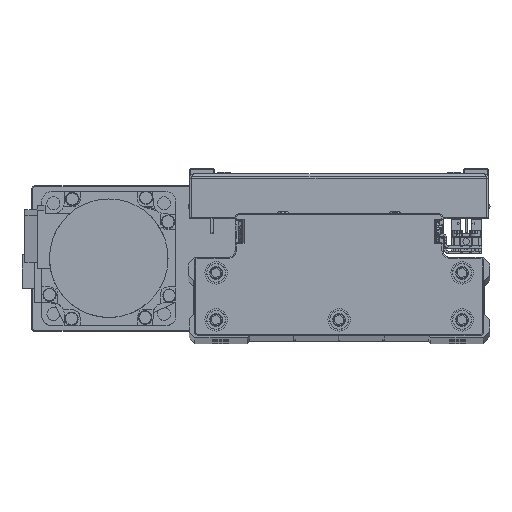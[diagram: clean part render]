
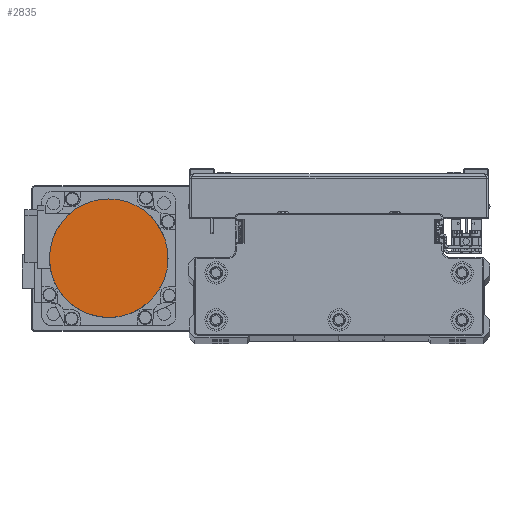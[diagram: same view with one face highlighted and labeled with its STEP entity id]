
A CAD part, top view. The second image highlights one B-rep face of the part: STEP entity #2835.
In plain terms, the highlighted planar face has unit normal (0, 0, 1) as drawn and (0, 0, -1) by its records, which use the part's own axes.
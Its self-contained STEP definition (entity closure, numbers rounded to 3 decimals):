
#530 = DIRECTION ( 'NONE',  ( 0., 0., 1. ) ) ;
#715 = CARTESIAN_POINT ( 'NONE',  ( -13.28, -22.998, -109.7 ) ) ;
#913 = ORIENTED_EDGE ( 'NONE', *, *, #24701, .F. ) ;
#959 = CARTESIAN_POINT ( 'NONE',  ( 17.512, -19.965, -109.7 ) ) ;
#2234 = CARTESIAN_POINT ( 'NONE',  ( 11.744, 23.819, -109.7 ) ) ;
#2474 = CARTESIAN_POINT ( 'NONE',  ( -19.965, 17.512, -109.7 ) ) ;
#2835 = ADVANCED_FACE ( 'NONE', ( #3971 ), #17881, .F. ) ;
#2983 = ORIENTED_EDGE ( 'NONE', *, *, #26937, .F. ) ;
#3971 = FACE_OUTER_BOUND ( 'NONE', #27456, .T. ) ;
#4138 = CARTESIAN_POINT ( 'NONE',  ( -19.965, -17.512, -109.7 ) ) ;
#4367 = CARTESIAN_POINT ( 'NONE',  ( 11.744, -23.819, -109.7 ) ) ;
#5671 = CARTESIAN_POINT ( 'NONE',  ( 17.512, 19.965, -109.7 ) ) ;
#5894 = CARTESIAN_POINT ( 'NONE',  ( -13.28, 22.998, -109.7 ) ) ;
#7228 = AXIS2_PLACEMENT_3D ( 'NONE', #31821, #530, #14461 ) ;
#7596 = CARTESIAN_POINT ( 'NONE',  ( -23.819, -11.744, -109.7 ) ) ;
#7818 = CARTESIAN_POINT ( 'NONE',  ( 3.469, -26.329, -109.7 ) ) ;
#8041 = CARTESIAN_POINT ( 'NONE',  ( 26.329, -3.469, -109.7 ) ) ;
#9115 = CARTESIAN_POINT ( 'NONE',  ( 22.998, 13.28, -109.7 ) ) ;
#9329 = CARTESIAN_POINT ( 'NONE',  ( -6.871, 25.652, -109.7 ) ) ;
#9546 = CARTESIAN_POINT ( 'NONE',  ( -26.5, 1.734, -109.7 ) ) ;
#11002 = CARTESIAN_POINT ( 'NONE',  ( -26.329, -3.469, -109.7 ) ) ;
#11244 = CARTESIAN_POINT ( 'NONE',  ( -3.469, -26.329, -109.7 ) ) ;
#11465 = CARTESIAN_POINT ( 'NONE',  ( 23.819, -11.744, -109.7 ) ) ;
#12526 = CARTESIAN_POINT ( 'NONE',  ( 25.652, 6.871, -109.7 ) ) ;
#12757 = CARTESIAN_POINT ( 'NONE',  ( 1.734, 26.5, -109.7 ) ) ;
#12967 = CARTESIAN_POINT ( 'NONE',  ( -25.147, 8.539, -109.7 ) ) ;
#14461 = DIRECTION ( 'NONE',  ( 1., 0., 0. ) ) ;
#14647 = CARTESIAN_POINT ( 'NONE',  ( -11.744, -23.819, -109.7 ) ) ;
#14888 = CARTESIAN_POINT ( 'NONE',  ( 19.965, -17.512, -109.7 ) ) ;
#15933 = CARTESIAN_POINT ( 'NONE',  ( 26.5, 0., -109.7 ) ) ;
#16164 = CARTESIAN_POINT ( 'NONE',  ( 8.539, 25.147, -109.7 ) ) ;
#16394 = CARTESIAN_POINT ( 'NONE',  ( -21.07, 16.165, -109.7 ) ) ;
#17881 = PLANE ( 'NONE',  #7228 ) ;
#18057 = CARTESIAN_POINT ( 'NONE',  ( -17.512, -19.965, -109.7 ) ) ;
#18097 = B_SPLINE_CURVE_WITH_KNOTS ( 'NONE', 3,
 ( #28351, #42269, #11002, #24936, #38861, #7596, #21513, #35430, #4138, #18057, #32005, #715, #14647, #28592, #42515, #11244, #25170, #39085, #7818, #21731, #35653, #4367, #18293, #32250, #959, #14888, #28823, #42736, #11465, #25391, #39311, #8041, #21966, #35888 ),
 .UNSPECIFIED., .F., .F.,
 ( 4, 2, 2, 2, 2, 2, 2, 2, 2, 2, 2, 2, 2, 2, 2, 2, 4 ),
 ( 0., 0.063, 0.125, 0.188, 0.25, 0.312, 0.375, 0.437, 0.5, 0.562, 0.625, 0.687, 0.75, 0.813, 0.875, 0.938, 1. ),
 .UNSPECIFIED. ) ;
#18293 = CARTESIAN_POINT ( 'NONE',  ( 13.28, -22.998, -109.7 ) ) ;
#19583 = CARTESIAN_POINT ( 'NONE',  ( 16.165, 21.07, -109.7 ) ) ;
#19816 = CARTESIAN_POINT ( 'NONE',  ( -16.165, 21.07, -109.7 ) ) ;
#21306 = CARTESIAN_POINT ( 'NONE',  ( -26.5, 0., -109.7 ) ) ;
#21513 = CARTESIAN_POINT ( 'NONE',  ( -22.998, -13.28, -109.7 ) ) ;
#21731 = CARTESIAN_POINT ( 'NONE',  ( 6.871, -25.652, -109.7 ) ) ;
#21966 = CARTESIAN_POINT ( 'NONE',  ( 26.5, -1.734, -109.7 ) ) ;
#23040 = CARTESIAN_POINT ( 'NONE',  ( 21.07, 16.165, -109.7 ) ) ;
#23245 = CARTESIAN_POINT ( 'NONE',  ( -8.539, 25.147, -109.7 ) ) ;
#23473 = CARTESIAN_POINT ( 'NONE',  ( -26.5, 0., -109.7 ) ) ;
#23511 = B_SPLINE_CURVE_WITH_KNOTS ( 'NONE', 3,
 ( #15933, #29875, #43798, #12526, #26469, #40391, #9115, #23040, #36950, #5671, #19583, #33523, #2234, #16164, #30112, #44040, #12757, #26691, #40594, #9329, #23245, #37165, #5894, #19816, #33755, #2474, #16394, #30331, #44254, #12967, #26908, #40810, #9546, #23473 ),
 .UNSPECIFIED., .F., .F.,
 ( 4, 2, 2, 2, 2, 2, 2, 2, 2, 2, 2, 2, 2, 2, 2, 2, 4 ),
 ( 0., 0.062, 0.125, 0.187, 0.25, 0.312, 0.375, 0.437, 0.5, 0.562, 0.625, 0.687, 0.75, 0.813, 0.875, 0.938, 1. ),
 .UNSPECIFIED. ) ;
#24701 = EDGE_CURVE ( 'NONE', #35715, #36092, #23511, .T. ) ;
#24936 = CARTESIAN_POINT ( 'NONE',  ( -25.652, -6.871, -109.7 ) ) ;
#25170 = CARTESIAN_POINT ( 'NONE',  ( -1.734, -26.5, -109.7 ) ) ;
#25391 = CARTESIAN_POINT ( 'NONE',  ( 25.147, -8.539, -109.7 ) ) ;
#26469 = CARTESIAN_POINT ( 'NONE',  ( 25.147, 8.539, -109.7 ) ) ;
#26691 = CARTESIAN_POINT ( 'NONE',  ( -1.734, 26.5, -109.7 ) ) ;
#26908 = CARTESIAN_POINT ( 'NONE',  ( -25.652, 6.871, -109.7 ) ) ;
#26937 = EDGE_CURVE ( 'NONE', #36092, #35715, #18097, .T. ) ;
#27456 = EDGE_LOOP ( 'NONE', ( #913, #2983 ) ) ;
#28351 = CARTESIAN_POINT ( 'NONE',  ( -26.5, 0., -109.7 ) ) ;
#28592 = CARTESIAN_POINT ( 'NONE',  ( -8.539, -25.147, -109.7 ) ) ;
#28823 = CARTESIAN_POINT ( 'NONE',  ( 21.07, -16.165, -109.7 ) ) ;
#29875 = CARTESIAN_POINT ( 'NONE',  ( 26.5, 1.734, -109.7 ) ) ;
#30112 = CARTESIAN_POINT ( 'NONE',  ( 6.871, 25.652, -109.7 ) ) ;
#30331 = CARTESIAN_POINT ( 'NONE',  ( -22.998, 13.28, -109.7 ) ) ;
#31821 = CARTESIAN_POINT ( 'NONE',  ( 0., 0., -109.7 ) ) ;
#32005 = CARTESIAN_POINT ( 'NONE',  ( -16.165, -21.07, -109.7 ) ) ;
#32250 = CARTESIAN_POINT ( 'NONE',  ( 16.165, -21.07, -109.7 ) ) ;
#33523 = CARTESIAN_POINT ( 'NONE',  ( 13.28, 22.998, -109.7 ) ) ;
#33755 = CARTESIAN_POINT ( 'NONE',  ( -17.512, 19.965, -109.7 ) ) ;
#35430 = CARTESIAN_POINT ( 'NONE',  ( -21.07, -16.165, -109.7 ) ) ;
#35653 = CARTESIAN_POINT ( 'NONE',  ( 8.539, -25.147, -109.7 ) ) ;
#35715 = VERTEX_POINT ( 'NONE', #38054 ) ;
#35888 = CARTESIAN_POINT ( 'NONE',  ( 26.5, 0., -109.7 ) ) ;
#36092 = VERTEX_POINT ( 'NONE', #21306 ) ;
#36950 = CARTESIAN_POINT ( 'NONE',  ( 19.965, 17.512, -109.7 ) ) ;
#37165 = CARTESIAN_POINT ( 'NONE',  ( -11.744, 23.819, -109.7 ) ) ;
#38054 = CARTESIAN_POINT ( 'NONE',  ( 26.5, 0., -109.7 ) ) ;
#38861 = CARTESIAN_POINT ( 'NONE',  ( -25.147, -8.539, -109.7 ) ) ;
#39085 = CARTESIAN_POINT ( 'NONE',  ( 1.734, -26.5, -109.7 ) ) ;
#39311 = CARTESIAN_POINT ( 'NONE',  ( 25.652, -6.871, -109.7 ) ) ;
#40391 = CARTESIAN_POINT ( 'NONE',  ( 23.819, 11.744, -109.7 ) ) ;
#40594 = CARTESIAN_POINT ( 'NONE',  ( -3.469, 26.329, -109.7 ) ) ;
#40810 = CARTESIAN_POINT ( 'NONE',  ( -26.329, 3.469, -109.7 ) ) ;
#42269 = CARTESIAN_POINT ( 'NONE',  ( -26.5, -1.734, -109.7 ) ) ;
#42515 = CARTESIAN_POINT ( 'NONE',  ( -6.871, -25.652, -109.7 ) ) ;
#42736 = CARTESIAN_POINT ( 'NONE',  ( 22.998, -13.28, -109.7 ) ) ;
#43798 = CARTESIAN_POINT ( 'NONE',  ( 26.329, 3.469, -109.7 ) ) ;
#44040 = CARTESIAN_POINT ( 'NONE',  ( 3.469, 26.329, -109.7 ) ) ;
#44254 = CARTESIAN_POINT ( 'NONE',  ( -23.819, 11.744, -109.7 ) ) ;
